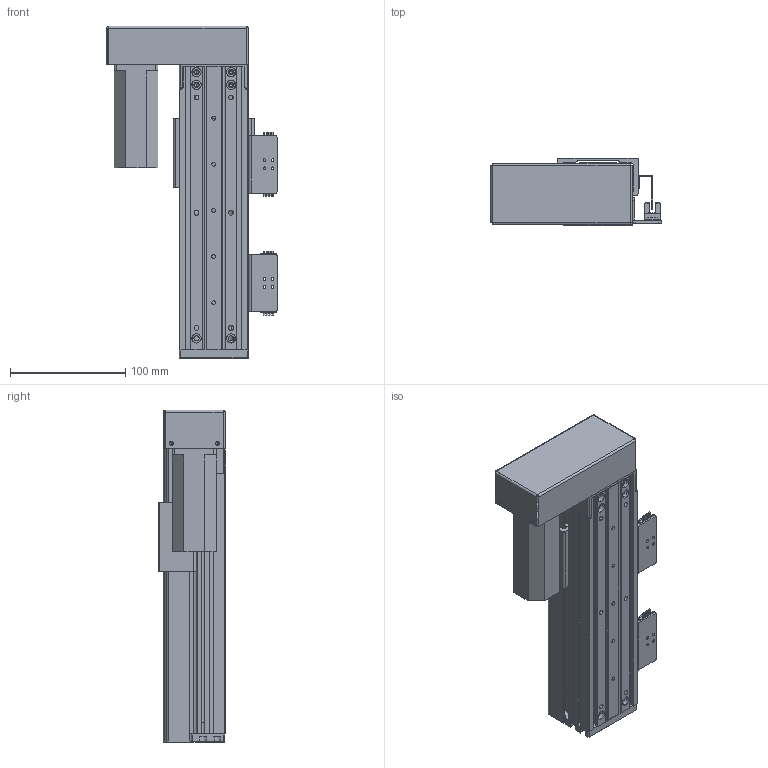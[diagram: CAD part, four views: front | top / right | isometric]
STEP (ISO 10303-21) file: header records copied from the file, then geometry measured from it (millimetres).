
FILE_DESCRIPTION (( 'STEP AP203' ), '1' );
FILE_NAME ('RY60FB-L1210-300-LK.SLDASM_100.step', '2021-02-23T01:00:44', ( '盈信电脑' ), ( '东莞市道滘镇水果街19号' ), 'SwSTEP 2.0', 'SolidWorks 2012', '' );
FILE_SCHEMA (( 'CONFIG_CONTROL_DESIGN' ));
Length unit declared in the file: millimetre
Products named in the file (14): RY80俋离覜茼え; RY60FB-674嫖萇耀輸; RY60FB-L1210-300-LK.SLDASM_100; RY60FB-感应器674光电安装座; RY60FB-左右折电机安装板; 覜茼ん674; RY60FB-蛌殏萇儂欶; 侂狟100W; RY60FB-蛌殏奻裔-300-LK_100; RY60FB綴裔啣; RY60FB转折电机端支撑座; RY60FB-蛌殏菁釱-300-LK_100; 滅袉蝶18-10; RY60FB-臏賑輸
Assembly tree (18 placements, depth 3):
  RY60FB-L1210-300-LK.SLDASM_100
    RY60FB-蛌殏菁釱-300-LK_100
    RY60FB-臏賑輸
    滅袉蝶18-10  x4
    RY60FB-蛌殏奻裔-300-LK_100
    侂狟100W
    RY60FB綴裔啣
    RY60FB转折电机端支撑座
    RY60FB-左右折电机安装板
    RY60FB-蛌殏萇儂欶
    RY60FB-674嫖萇耀輸  x2
      RY60FB-感应器674光电安装座
      覜茼ん674
    RY80俋离覜茼え
Bounding box: 147.75 x 58.5 x 288 mm (x, y, z)
Volume: 538160.9 mm3; surface area: 282519.5 mm2
Topology: 19 solids, 19 shells, 1131 faces, 3068 edges, 1954 vertices
Faces by surface type: plane 591, cylinder 435, cone 97, bspline 8
Entity records: 30236 total; most frequent: CARTESIAN_POINT 5946, DIRECTION 4766, ORIENTED_EDGE 4688, EDGE_CURVE 2344, AXIS2_PLACEMENT_3D 1648, VERTEX_POINT 1516, LINE 1470, VECTOR 1470
